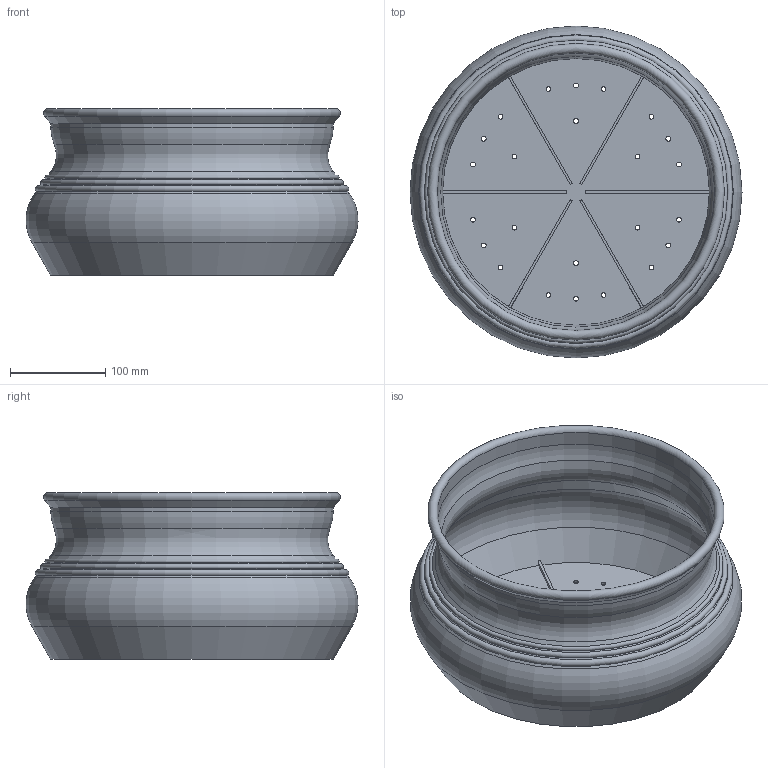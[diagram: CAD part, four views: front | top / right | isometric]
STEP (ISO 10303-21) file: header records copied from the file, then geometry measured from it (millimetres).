
FILE_DESCRIPTION(/* description */ (''),/* implementation_level */ '2;1');
FILE_NAME(/* name */ 'LR2406-S25-H175-D350_step.step',/* time_stamp */ '2024-02-01T10:59:39+01:00',/* author */ (''),/* organization */ (''),/* preprocessor_version */ 'ST-DEVELOPER v20',/* originating_system */ 'Autodesk Translation Framework v12.20.1.177',/* authorisation */ '');
FILE_SCHEMA (('AUTOMOTIVE_DESIGN { 1 0 10303 214 3 1 1 }'));
Length unit declared in the file: millimetre
Products named in the file (1): LR2406-S25-H175-D350
Bounding box: 347.97 x 347.97 x 175 mm (x, y, z)
Volume: 701127.8 mm3; surface area: 530542.3 mm2
Topology: 1 solids, 1 shells, 70 faces, 185 edges, 117 vertices
Faces by surface type: cylinder 32, plane 20, torus 10, cone 8
Full cylindrical faces by diameter (mm): 5 x24, 291 x1, 296 x1
Entity records: 2336 total; most frequent: DIRECTION 430, CARTESIAN_POINT 373, ORIENTED_EDGE 370, EDGE_CURVE 185, AXIS2_PLACEMENT_3D 174, EDGE_LOOP 118, VERTEX_POINT 117, CIRCLE 103
